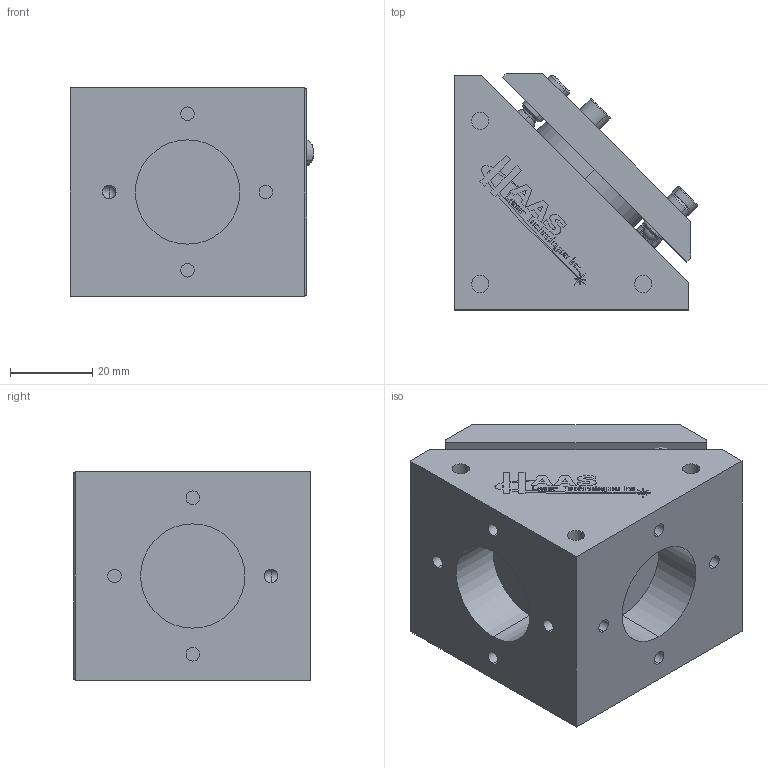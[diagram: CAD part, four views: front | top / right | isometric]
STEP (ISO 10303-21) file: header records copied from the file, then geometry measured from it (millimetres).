
FILE_DESCRIPTION (( 'STEP AP214' ), '1' );
FILE_NAME ('BBK-19-XX-XXX-NN.STEP', '2016-06-08T13:15:57', ( '' ), ( '' ), 'SwSTEP 2.0', 'SolidWorks 2016', '' );
FILE_SCHEMA (( 'AUTOMOTIVE_DESIGN' ));
Length unit declared in the file: inch
Products named in the file (1): BBK-19-XX-XXX-NN
Bounding box: 59.32 x 57.53 x 50.8 mm (x, y, z)
Volume: 125588.5 mm3; surface area: 31013.2 mm2
Topology: 10 solids, 10 shells, 281 faces, 1052 edges, 886 vertices
Faces by surface type: plane 158, cylinder 77, cone 31, torus 8, sphere 7
Entity records: 12828 total; most frequent: CARTESIAN_POINT 2454, ORIENTED_EDGE 2096, DIRECTION 1884, EDGE_CURVE 1048, VERTEX_POINT 885, LINE 698, VECTOR 698, AXIS2_PLACEMENT_3D 593
